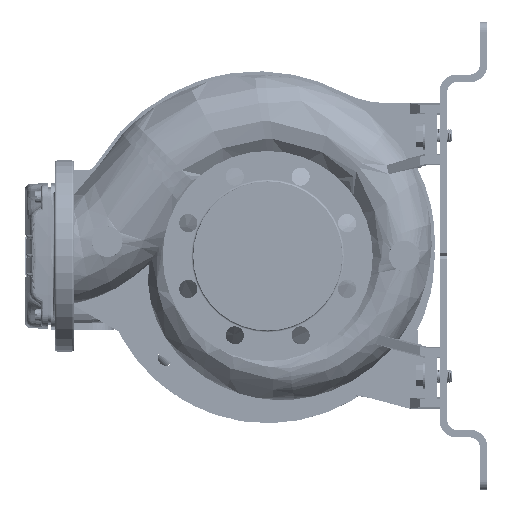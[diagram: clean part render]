
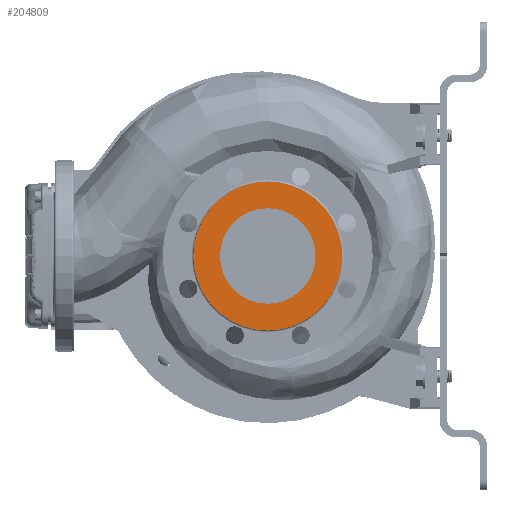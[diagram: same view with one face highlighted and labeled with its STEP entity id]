
A CAD part, left-side view. The second image highlights one B-rep face of the part: STEP entity #204809.
In plain terms, the highlighted planar face has unit normal (-1, 0, 0).
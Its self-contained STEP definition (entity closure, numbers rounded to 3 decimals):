
#4519 = CARTESIAN_POINT ( 'NONE',  ( -125., -50., 0. ) ) ;
#13425 = DIRECTION ( 'NONE',  ( 0., -1., 0. ) ) ;
#19295 = FACE_OUTER_BOUND ( 'NONE', #32429, .T. ) ;
#26647 = ORIENTED_EDGE ( 'NONE', *, *, #115454, .F. ) ;
#32429 = EDGE_LOOP ( 'NONE', ( #94839, #148894 ) ) ;
#34397 = DIRECTION ( 'NONE',  ( 0., -1., 0. ) ) ;
#35144 = AXIS2_PLACEMENT_3D ( 'NONE', #214391, #79835, #40675 ) ;
#40675 = DIRECTION ( 'NONE',  ( 0., -1., 0. ) ) ;
#43576 = DIRECTION ( 'NONE',  ( 0., -1., 0. ) ) ;
#43840 = FACE_BOUND ( 'NONE', #251226, .T. ) ;
#52032 = AXIS2_PLACEMENT_3D ( 'NONE', #127914, #62689, #237864 ) ;
#54034 = CARTESIAN_POINT ( 'NONE',  ( -125., 0., 0. ) ) ;
#59162 = EDGE_CURVE ( 'NONE', #200403, #88574, #104619, .T. ) ;
#62300 = VERTEX_POINT ( 'NONE', #157190 ) ;
#62689 = DIRECTION ( 'NONE',  ( 1., 0., 0. ) ) ;
#64062 = ORIENTED_EDGE ( 'NONE', *, *, #273923, .F. ) ;
#79835 = DIRECTION ( 'NONE',  ( -1., 0., 0. ) ) ;
#81833 = CIRCLE ( 'NONE', #211160, 50. ) ;
#83737 = EDGE_CURVE ( 'NONE', #88574, #200403, #140860, .T. ) ;
#88574 = VERTEX_POINT ( 'NONE', #247842 ) ;
#94839 = ORIENTED_EDGE ( 'NONE', *, *, #59162, .T. ) ;
#104619 = CIRCLE ( 'NONE', #35144, 78. ) ;
#105068 = CIRCLE ( 'NONE', #197388, 50. ) ;
#115454 = EDGE_CURVE ( 'NONE', #62300, #200959, #81833, .T. ) ;
#127914 = CARTESIAN_POINT ( 'NONE',  ( -125., 0., 0. ) ) ;
#140860 = CIRCLE ( 'NONE', #205471, 78. ) ;
#141153 = CARTESIAN_POINT ( 'NONE',  ( -125., 0., 0. ) ) ;
#141555 = DIRECTION ( 'NONE',  ( -1., 0., 0. ) ) ;
#148894 = ORIENTED_EDGE ( 'NONE', *, *, #83737, .T. ) ;
#157190 = CARTESIAN_POINT ( 'NONE',  ( -125., 50., 0. ) ) ;
#191856 = CARTESIAN_POINT ( 'NONE',  ( -125., -78., 0. ) ) ;
#197388 = AXIS2_PLACEMENT_3D ( 'NONE', #254355, #141555, #34397 ) ;
#200403 = VERTEX_POINT ( 'NONE', #191856 ) ;
#200959 = VERTEX_POINT ( 'NONE', #4519 ) ;
#204809 = ADVANCED_FACE ( 'NONE', ( #43840, #19295 ), #261031, .F. ) ;
#205471 = AXIS2_PLACEMENT_3D ( 'NONE', #54034, #279780, #13425 ) ;
#211160 = AXIS2_PLACEMENT_3D ( 'NONE', #141153, #229308, #43576 ) ;
#214391 = CARTESIAN_POINT ( 'NONE',  ( -125., 0., 0. ) ) ;
#229308 = DIRECTION ( 'NONE',  ( -1., 0., 0. ) ) ;
#237864 = DIRECTION ( 'NONE',  ( 0., 1., 0. ) ) ;
#247842 = CARTESIAN_POINT ( 'NONE',  ( -125., 78., 0. ) ) ;
#251226 = EDGE_LOOP ( 'NONE', ( #64062, #26647 ) ) ;
#254355 = CARTESIAN_POINT ( 'NONE',  ( -125., 0., 0. ) ) ;
#261031 = PLANE ( 'NONE',  #52032 ) ;
#273923 = EDGE_CURVE ( 'NONE', #200959, #62300, #105068, .T. ) ;
#279780 = DIRECTION ( 'NONE',  ( -1., 0., 0. ) ) ;
